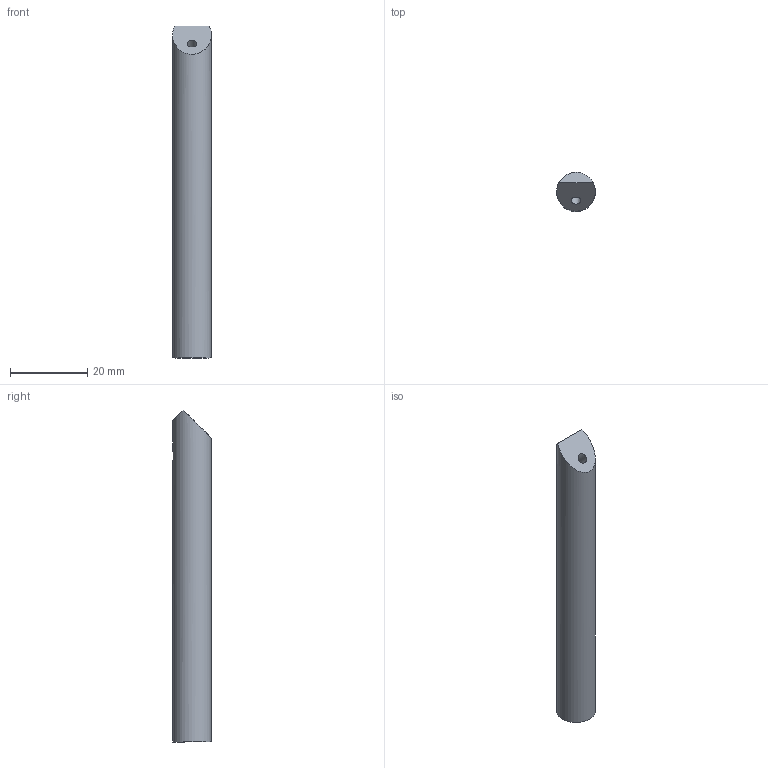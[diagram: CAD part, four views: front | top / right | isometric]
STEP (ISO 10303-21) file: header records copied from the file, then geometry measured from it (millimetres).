
FILE_DESCRIPTION(/* description */ (''),/* implementation_level */ '2;1');
FILE_NAME(/* name */ 'C:/Users/anton/Documents/Kerbal Space Program/Kerbal_Control_Panel/KCP2/CAD/ForManufacture/ShortColumn_v90.step',/* time_stamp */ '2020-11-13T21:33:24-08:00',/* author */ (''),/* organization */ (''),/* preprocessor_version */ 'ST-DEVELOPER v18.1',/* originating_system */ 'Autodesk Translation Framework v9.3.0.1241',/* authorisation */ '');
FILE_SCHEMA (('AUTOMOTIVE_DESIGN { 1 0 10303 214 3 1 1 }'));
Length unit declared in the file: millimetre
Products named in the file (1): Short Column
Bounding box: 10 x 10 x 85.69 mm (x, y, z)
Volume: 6358.3 mm3; surface area: 2999.5 mm2
Topology: 1 solids, 1 shells, 7 faces, 14 edges, 9 vertices
Faces by surface type: plane 3, cylinder 3, cone 1
Full cylindrical faces by diameter (mm): 2.529 x2, 10 x1
Entity records: 261 total; most frequent: CARTESIAN_POINT 67, DIRECTION 35, ORIENTED_EDGE 26, AXIS2_PLACEMENT_3D 15, EDGE_CURVE 13, EDGE_LOOP 10, VERTEX_POINT 9, FACE_OUTER_BOUND 7
